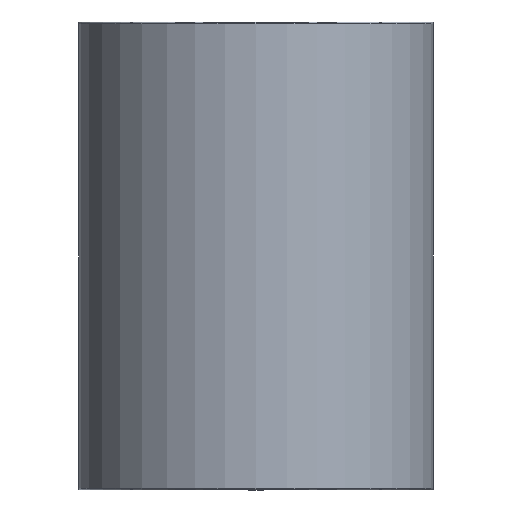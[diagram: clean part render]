
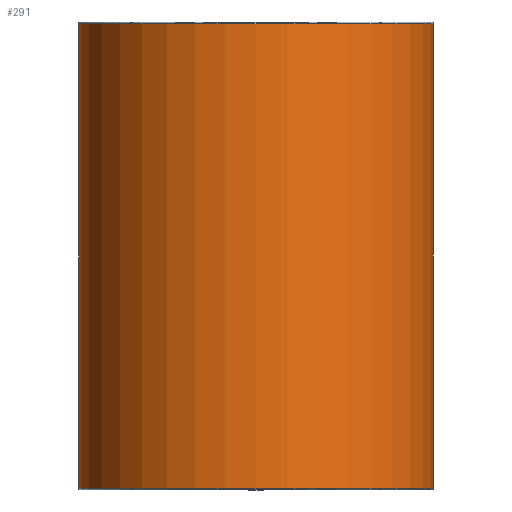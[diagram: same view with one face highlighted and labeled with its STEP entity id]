
A CAD part, front view. The second image highlights one B-rep face of the part: STEP entity #291.
In plain terms, the highlighted cylindrical face has radius 37.125 mm (diameter 74.25 mm), a partial arc.
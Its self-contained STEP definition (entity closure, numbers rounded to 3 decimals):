
#196=CARTESIAN_POINT('',(0.0,-37.125,55.1));
#197=VERTEX_POINT('',#196);
#223=CARTESIAN_POINT('',(-37.125,0.,55.1));
#224=VERTEX_POINT('',#223);
#232=CARTESIAN_POINT('',(0.0,0.,55.1));
#233=DIRECTION('',(0.0,0.0,1.0));
#234=DIRECTION('',(1.0,0.0,0.0));
#235=AXIS2_PLACEMENT_3D('',#232,#233,#234);
#236=CIRCLE('',#235,37.125);
#237=EDGE_CURVE('',#224,#197,#236,.T.);
#242=CARTESIAN_POINT('',(0.0,0.,6.5));
#243=DIRECTION('',(0.0,0.,1.0));
#244=DIRECTION('',(1.0,0.0,0.0));
#245=AXIS2_PLACEMENT_3D('',#242,#243,#244);
#246=CYLINDRICAL_SURFACE('',#245,37.125);
#247=CARTESIAN_POINT('',(37.125,0.,55.1));
#248=VERTEX_POINT('',#247);
#249=CARTESIAN_POINT('',(37.125,0.,-42.1));
#250=VERTEX_POINT('',#249);
#251=CARTESIAN_POINT('',(37.125,0.,55.1));
#252=DIRECTION('',(0.0,0.0,-1.0));
#253=VECTOR('',#252,97.2);
#254=LINE('',#251,#253);
#255=EDGE_CURVE('',#248,#250,#254,.T.);
#256=ORIENTED_EDGE('',*,*,#255,.F.);
#257=CARTESIAN_POINT('',(0.0,0.,55.1));
#258=DIRECTION('',(0.0,0.0,1.0));
#259=DIRECTION('',(1.0,0.0,0.0));
#260=AXIS2_PLACEMENT_3D('',#257,#258,#259);
#261=CIRCLE('',#260,37.125);
#262=EDGE_CURVE('',#197,#248,#261,.T.);
#263=ORIENTED_EDGE('',*,*,#262,.F.);
#264=ORIENTED_EDGE('',*,*,#237,.F.);
#265=CARTESIAN_POINT('',(-37.125,0.,-42.1));
#266=VERTEX_POINT('',#265);
#267=CARTESIAN_POINT('',(-37.125,0.,55.1));
#268=DIRECTION('',(0.0,0.0,-1.0));
#269=VECTOR('',#268,97.2);
#270=LINE('',#267,#269);
#271=EDGE_CURVE('',#224,#266,#270,.T.);
#272=ORIENTED_EDGE('',*,*,#271,.T.);
#273=CARTESIAN_POINT('',(0.0,-37.125,-42.1));
#274=VERTEX_POINT('',#273);
#275=CARTESIAN_POINT('',(0.0,0.,-42.1));
#276=DIRECTION('',(0.0,0.0,1.0));
#277=DIRECTION('',(1.0,0.0,0.0));
#278=AXIS2_PLACEMENT_3D('',#275,#276,#277);
#279=CIRCLE('',#278,37.125);
#280=EDGE_CURVE('',#266,#274,#279,.T.);
#281=ORIENTED_EDGE('',*,*,#280,.T.);
#282=CARTESIAN_POINT('',(0.0,0.,-42.1));
#283=DIRECTION('',(0.0,0.0,1.0));
#284=DIRECTION('',(1.0,0.0,0.0));
#285=AXIS2_PLACEMENT_3D('',#282,#283,#284);
#286=CIRCLE('',#285,37.125);
#287=EDGE_CURVE('',#274,#250,#286,.T.);
#288=ORIENTED_EDGE('',*,*,#287,.T.);
#289=EDGE_LOOP('',(#256,#263,#264,#272,#281,#288));
#290=FACE_OUTER_BOUND('',#289,.T.);
#291=ADVANCED_FACE('',(#290),#246,.T.);
